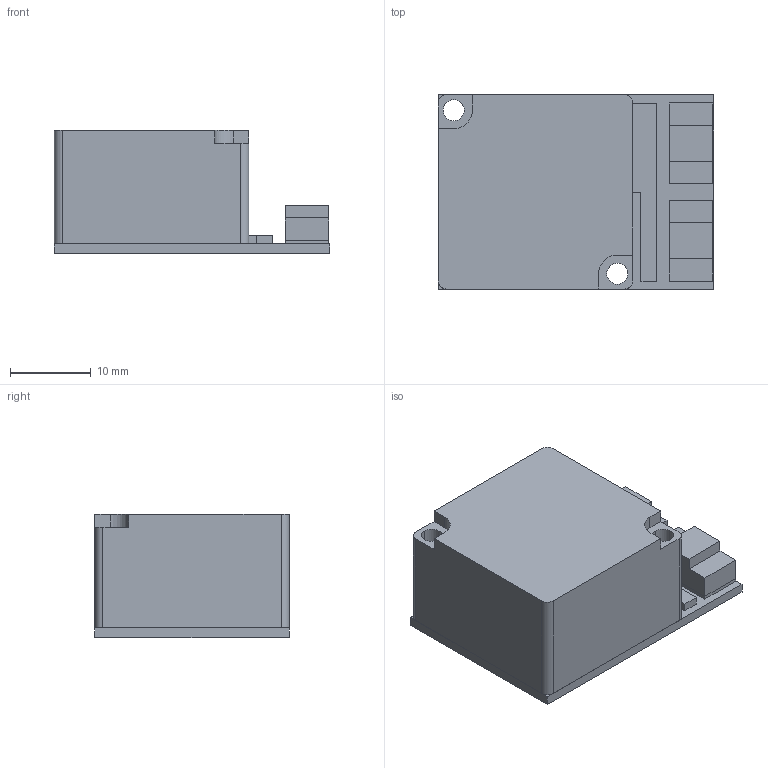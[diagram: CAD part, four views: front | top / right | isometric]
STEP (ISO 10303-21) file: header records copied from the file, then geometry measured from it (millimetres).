
FILE_DESCRIPTION (( 'STEP AP203' ), '1' );
FILE_NAME ('EVAL-HI71-3D.STEP', '2025-07-29T04:54:33', ( '' ), ( '' ), 'SwSTEP 2.0', 'SolidWorks 2016', '' );
FILE_SCHEMA (( 'CONFIG_CONTROL_DESIGN' ));
Length unit declared in the file: millimetre
Products named in the file (1): EVAL-HI71-3D
Bounding box: 34 x 24 x 15.2 mm (x, y, z)
Volume: 5191.1 mm3; surface area: 8014 mm2
Topology: 6 solids, 6 shells, 309 faces, 751 edges, 489 vertices
Faces by surface type: plane 179, cylinder 122, cone 8
Entity records: 9123 total; most frequent: DIRECTION 1618, CARTESIAN_POINT 1546, ORIENTED_EDGE 1494, EDGE_CURVE 747, AXIS2_PLACEMENT_3D 561, VECTOR 496, LINE 496, VERTEX_POINT 489
